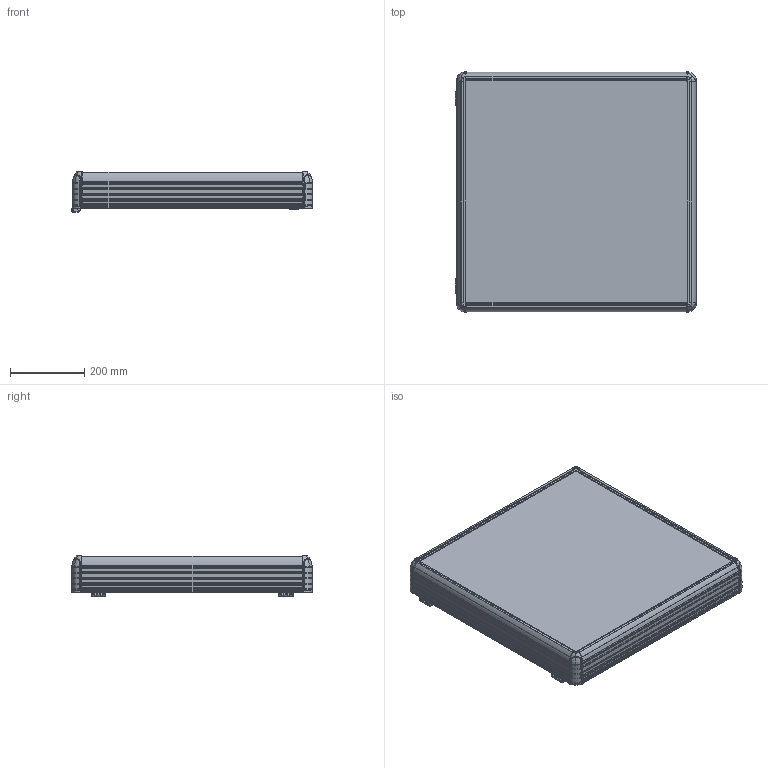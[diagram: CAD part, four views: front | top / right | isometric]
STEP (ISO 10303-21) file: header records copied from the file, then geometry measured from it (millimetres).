
FILE_DESCRIPTION (( 'STEP AP214' ), '1' );
FILE_NAME ('9000-0016.STEP', '2022-09-01T06:13:36', ( '' ), ( '' ), 'SwSTEP 2.0', 'SolidWorks 2022', '' );
FILE_SCHEMA (( 'AUTOMOTIVE_DESIGN' ));
Length unit declared in the file: millimetre
Products named in the file (5): ARKA_KAPAK_600X600; ECO9000-0000; HPECO-090-001-295_595; 9000-0016; 600X600
Assembly tree (10 placements, depth 2):
  9000-0016
    600X600
    ARKA_KAPAK_600X600
    ECO9000-0000  x4
    HPECO-090-001-295_595  x4
Bounding box: 649.03 x 647 x 109.16 mm (x, y, z)
Volume: 3631678.6 mm3; surface area: 2828736.2 mm2
Topology: 18 solids, 68 shells, 6189 faces, 16640 edges, 10330 vertices
Faces by surface type: plane 2561, cylinder 1752, bspline 996, cone 566, torus 268, sphere 46
Entity records: 148097 total; most frequent: CARTESIAN_POINT 35197, ORIENTED_EDGE 17812, DIRECTION 15800, EDGE_CURVE 8906, AXIS2_PLACEMENT_3D 5825, VERTEX_POINT 5530, LINE 4150, VECTOR 4150
